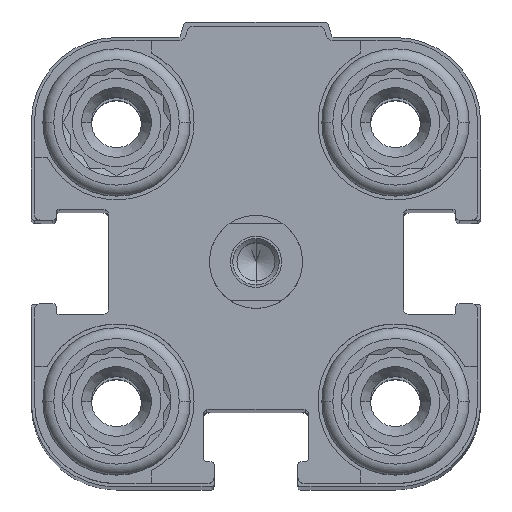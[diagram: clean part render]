
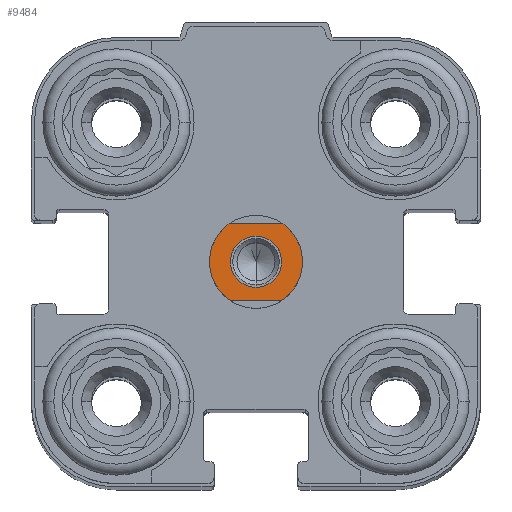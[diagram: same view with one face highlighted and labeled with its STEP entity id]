
A CAD part, top view. The second image highlights one B-rep face of the part: STEP entity #9484.
In plain terms, the highlighted planar face has unit normal (0, 0, 1).
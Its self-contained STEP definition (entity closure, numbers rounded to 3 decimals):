
#339 = EDGE_LOOP ( 'NONE', ( #5745, #13234 ) ) ;
#484 = AXIS2_PLACEMENT_3D ( 'NONE', #2586, #1230, #1332 ) ;
#693 = CIRCLE ( 'NONE', #9580, 3. ) ;
#718 = AXIS2_PLACEMENT_3D ( 'NONE', #4999, #9229, #3741 ) ;
#1119 = CARTESIAN_POINT ( 'NONE',  ( -5., 2.5, 4.5 ) ) ;
#1230 = DIRECTION ( 'NONE',  ( 0., 0., -1. ) ) ;
#1270 = AXIS2_PLACEMENT_3D ( 'NONE', #8418, #6887, #16508 ) ;
#1332 = DIRECTION ( 'NONE',  ( 0., 1., 0. ) ) ;
#1677 = CARTESIAN_POINT ( 'NONE',  ( 0., 0., 4.5 ) ) ;
#2002 = ORIENTED_EDGE ( 'NONE', *, *, #16724, .F. ) ;
#2141 = CARTESIAN_POINT ( 'NONE',  ( 0., 0., 4.5 ) ) ;
#2586 = CARTESIAN_POINT ( 'NONE',  ( 0., 0., 4.5 ) ) ;
#2686 = EDGE_LOOP ( 'NONE', ( #9267, #13960, #2002, #14539, #12788, #6397 ) ) ;
#2778 = CIRCLE ( 'NONE', #484, 1.65 ) ;
#2970 = CIRCLE ( 'NONE', #7835, 3. ) ;
#3217 = DIRECTION ( 'NONE',  ( 0., 1., 0. ) ) ;
#3229 = VERTEX_POINT ( 'NONE', #16441 ) ;
#3317 = PLANE ( 'NONE',  #6192 ) ;
#3405 = CARTESIAN_POINT ( 'NONE',  ( 0., 0., 4.5 ) ) ;
#3503 = CARTESIAN_POINT ( 'NONE',  ( 3., 0., 4.5 ) ) ;
#3569 = FACE_OUTER_BOUND ( 'NONE', #2686, .T. ) ;
#3741 = DIRECTION ( 'NONE',  ( -1., 0., 0. ) ) ;
#3902 = DIRECTION ( 'NONE',  ( 1., 0., 0. ) ) ;
#4999 = CARTESIAN_POINT ( 'NONE',  ( 0., 0., 4.5 ) ) ;
#5005 = EDGE_CURVE ( 'NONE', #7692, #5358, #14478, .T. ) ;
#5188 = EDGE_CURVE ( 'NONE', #3229, #13617, #17635, .T. ) ;
#5358 = VERTEX_POINT ( 'NONE', #16586 ) ;
#5440 = DIRECTION ( 'NONE',  ( -1., 0., 0. ) ) ;
#5450 = CARTESIAN_POINT ( 'NONE',  ( 0., 1.65, 4.5 ) ) ;
#5745 = ORIENTED_EDGE ( 'NONE', *, *, #12065, .T. ) ;
#6192 = AXIS2_PLACEMENT_3D ( 'NONE', #2141, #7702, #3217 ) ;
#6397 = ORIENTED_EDGE ( 'NONE', *, *, #16960, .F. ) ;
#6452 = EDGE_CURVE ( 'NONE', #13159, #10752, #2778, .T. ) ;
#6757 = VECTOR ( 'NONE', #3902, 1000. ) ;
#6887 = DIRECTION ( 'NONE',  ( 0., 0., -1. ) ) ;
#6985 = CARTESIAN_POINT ( 'NONE',  ( -3., 0., 4.5 ) ) ;
#7144 = DIRECTION ( 'NONE',  ( 0., 0., -1. ) ) ;
#7249 = AXIS2_PLACEMENT_3D ( 'NONE', #1677, #7144, #5440 ) ;
#7530 = VECTOR ( 'NONE', #13690, 1000. ) ;
#7618 = FACE_BOUND ( 'NONE', #339, .T. ) ;
#7692 = VERTEX_POINT ( 'NONE', #3503 ) ;
#7702 = DIRECTION ( 'NONE',  ( 0., 0., -1. ) ) ;
#7835 = AXIS2_PLACEMENT_3D ( 'NONE', #8647, #15648, #8735 ) ;
#8418 = CARTESIAN_POINT ( 'NONE',  ( 0., 0., 4.5 ) ) ;
#8454 = CIRCLE ( 'NONE', #1270, 1.65 ) ;
#8647 = CARTESIAN_POINT ( 'NONE',  ( 0., 0., 4.5 ) ) ;
#8735 = DIRECTION ( 'NONE',  ( -1., 0., 0. ) ) ;
#8938 = CARTESIAN_POINT ( 'NONE',  ( 0., -1.65, 4.5 ) ) ;
#9229 = DIRECTION ( 'NONE',  ( 0., 0., -1. ) ) ;
#9267 = ORIENTED_EDGE ( 'NONE', *, *, #5188, .F. ) ;
#9484 = ADVANCED_FACE ( 'NONE', ( #3569, #7618 ), #3317, .F. ) ;
#9580 = AXIS2_PLACEMENT_3D ( 'NONE', #3405, #10497, #11757 ) ;
#9914 = CARTESIAN_POINT ( 'NONE',  ( 5., -2.5, 4.5 ) ) ;
#10497 = DIRECTION ( 'NONE',  ( 0., 0., -1. ) ) ;
#10529 = CARTESIAN_POINT ( 'NONE',  ( 1.658, 2.5, 4.5 ) ) ;
#10752 = VERTEX_POINT ( 'NONE', #5450 ) ;
#11233 = CARTESIAN_POINT ( 'NONE',  ( -1.658, -2.5, 4.5 ) ) ;
#11565 = CIRCLE ( 'NONE', #7249, 3. ) ;
#11757 = DIRECTION ( 'NONE',  ( -1., 0., 0. ) ) ;
#12065 = EDGE_CURVE ( 'NONE', #10752, #13159, #8454, .T. ) ;
#12788 = ORIENTED_EDGE ( 'NONE', *, *, #5005, .F. ) ;
#13159 = VERTEX_POINT ( 'NONE', #8938 ) ;
#13234 = ORIENTED_EDGE ( 'NONE', *, *, #6452, .T. ) ;
#13359 = EDGE_CURVE ( 'NONE', #5358, #13976, #13597, .T. ) ;
#13597 = LINE ( 'NONE', #9914, #7530 ) ;
#13617 = VERTEX_POINT ( 'NONE', #10529 ) ;
#13690 = DIRECTION ( 'NONE',  ( -1., 0., 0. ) ) ;
#13960 = ORIENTED_EDGE ( 'NONE', *, *, #17517, .F. ) ;
#13976 = VERTEX_POINT ( 'NONE', #11233 ) ;
#14478 = CIRCLE ( 'NONE', #718, 3. ) ;
#14539 = ORIENTED_EDGE ( 'NONE', *, *, #13359, .F. ) ;
#15648 = DIRECTION ( 'NONE',  ( 0., 0., -1. ) ) ;
#16441 = CARTESIAN_POINT ( 'NONE',  ( -1.658, 2.5, 4.5 ) ) ;
#16508 = DIRECTION ( 'NONE',  ( 0., 1., 0. ) ) ;
#16547 = VERTEX_POINT ( 'NONE', #6985 ) ;
#16586 = CARTESIAN_POINT ( 'NONE',  ( 1.658, -2.5, 4.5 ) ) ;
#16724 = EDGE_CURVE ( 'NONE', #13976, #16547, #11565, .T. ) ;
#16960 = EDGE_CURVE ( 'NONE', #13617, #7692, #2970, .T. ) ;
#17517 = EDGE_CURVE ( 'NONE', #16547, #3229, #693, .T. ) ;
#17635 = LINE ( 'NONE', #1119, #6757 ) ;
